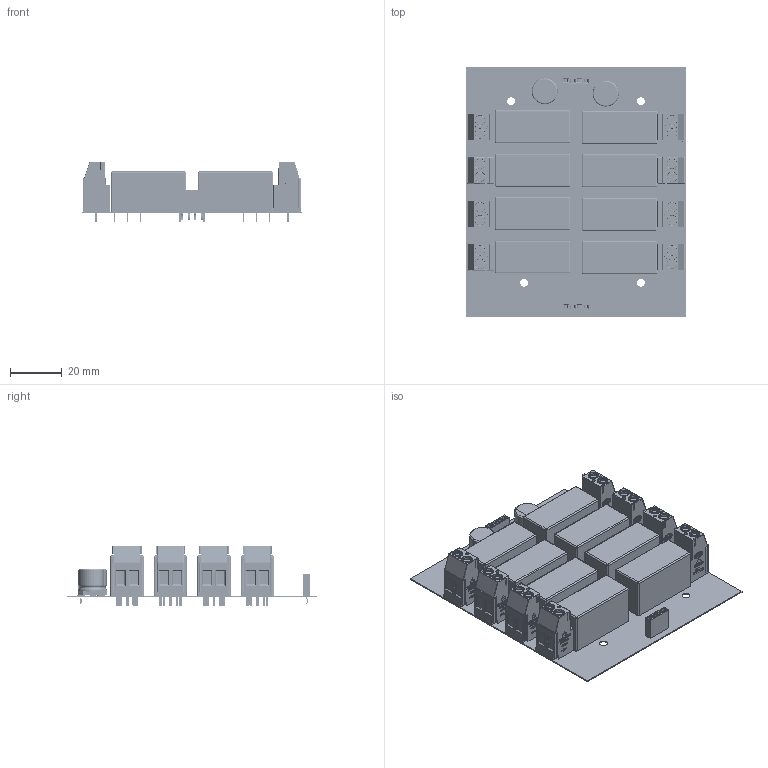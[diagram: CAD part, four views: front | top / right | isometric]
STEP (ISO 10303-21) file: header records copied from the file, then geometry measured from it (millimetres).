
FILE_DESCRIPTION(('Open CASCADE Model'),'2;1');
FILE_NAME('Open CASCADE Shape Model','2026-08-01T20:59:56',('Author'),( 'Open CASCADE'),'Open CASCADE STEP processor 7.5','Open CASCADE 7.5' ,'Unknown');
FILE_SCHEMA(('AUTOMOTIVE_DESIGN { 1 0 10303 214 1 1 1 1 }'));
Length unit declared in the file: millimetre
Products named in the file (27): PCB; Board; Open CASCADE STEP translator 7.5 7.1.1; J12; CVM_215299-4; R3; c-8-1393239-7-d-3d; J10; J1; DG129-5.08-02P-14-100A&Z(H); C4; 35SGV220M10X10.5; R6; R5; J4; R4; R8; C5; J2; J8; J6; J5; J3; R1; R2; J7; R7
Assembly tree (42 placements, depth 3):
  PCB
    Board
      Open CASCADE STEP translator 7.5 7.1.1
    J12
      CVM_215299-4
    R3
      c-8-1393239-7-d-3d
    J10
      CVM_215299-4
    J1
      DG129-5.08-02P-14-100A&Z(H)
    C4
      35SGV220M10X10.5
    R6
      c-8-1393239-7-d-3d
    R5
      c-8-1393239-7-d-3d
    J4
      DG129-5.08-02P-14-100A&Z(H)
    R4
      c-8-1393239-7-d-3d
    R8
      c-8-1393239-7-d-3d
    C5
      35SGV220M10X10.5
    J2
      DG129-5.08-02P-14-100A&Z(H)
    J8
      DG129-5.08-02P-14-100A&Z(H)
    J6
      DG129-5.08-02P-14-100A&Z(H)
    J5
      DG129-5.08-02P-14-100A&Z(H)
    J3
      DG129-5.08-02P-14-100A&Z(H)
    R1
      c-8-1393239-7-d-3d
    R2
      c-8-1393239-7-d-3d
    J7
      DG129-5.08-02P-14-100A&Z(H)
    R7
      c-8-1393239-7-d-3d
Bounding box: 84.5 x 96.5 x 23.45 mm (x, y, z)
Volume: 65634 mm3; surface area: 44563 mm2
Topology: 29 solids, 29 shells, 11416 faces, 32004 edges, 21144 vertices
Faces by surface type: plane 9452, bspline 904, cylinder 820, sphere 112, torus 88, cone 40
Full cylindrical faces by diameter (mm): 1 x8, 1.4 x88, 3 x4, 4.05 x16
Entity records: 62506 total; most frequent: CARTESIAN_POINT 18448, ORIENTED_EDGE 9442, DIRECTION 8142, EDGE_CURVE 4721, LINE 3862, VECTOR 3862, VERTEX_POINT 3116, AXIS2_PLACEMENT_3D 2140
